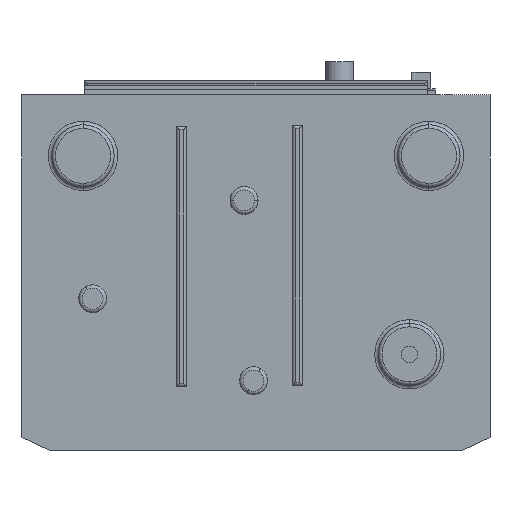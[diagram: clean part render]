
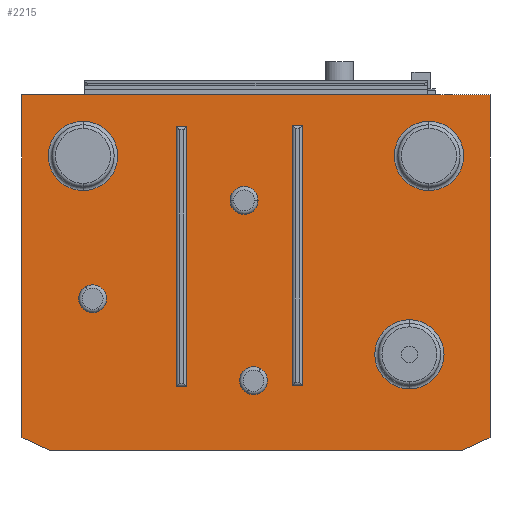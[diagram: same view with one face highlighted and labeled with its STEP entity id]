
A CAD part, front view. The second image highlights one B-rep face of the part: STEP entity #2215.
In plain terms, the highlighted planar face has unit normal (0, -1, 0).
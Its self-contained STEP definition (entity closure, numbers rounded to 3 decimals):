
#44=DIRECTION('',(0.,0.,-1.));
#45=VECTOR('',#44,289.275);
#46=CARTESIAN_POINT('',(197.5,0.,0.));
#47=LINE('',#46,#45);
#48=DIRECTION('',(-0.906,0.,-0.423));
#49=VECTOR('',#48,25.378);
#50=CARTESIAN_POINT('',(197.5,0.,-289.275));
#51=LINE('',#50,#49);
#52=DIRECTION('',(-1.,0.,0.));
#53=VECTOR('',#52,349.);
#54=CARTESIAN_POINT('',(174.5,0.,-300.));
#55=LINE('',#54,#53);
#56=DIRECTION('',(-0.906,0.,0.423));
#57=VECTOR('',#56,25.378);
#58=CARTESIAN_POINT('',(-174.5,0.,-300.));
#59=LINE('',#58,#57);
#60=DIRECTION('',(0.,0.,1.));
#61=VECTOR('',#60,289.275);
#62=CARTESIAN_POINT('',(-197.5,0.,-289.275));
#63=LINE('',#62,#61);
#64=DIRECTION('',(1.,0.,0.));
#65=VECTOR('',#64,395.);
#66=CARTESIAN_POINT('',(-197.5,0.,0.));
#67=LINE('',#66,#65);
#68=DIRECTION('',(-1.,0.,0.));
#69=VECTOR('',#68,9.);
#70=CARTESIAN_POINT('',(-58.379,0.,-26.5));
#71=LINE('',#70,#69);
#72=DIRECTION('',(0.,0.,-1.));
#73=VECTOR('',#72,220.);
#74=CARTESIAN_POINT('',(-67.379,0.,-26.5));
#75=LINE('',#74,#73);
#76=DIRECTION('',(1.,0.,0.));
#77=VECTOR('',#76,9.);
#78=CARTESIAN_POINT('',(-67.379,0.,-246.5));
#79=LINE('',#78,#77);
#80=DIRECTION('',(0.,0.,1.));
#81=VECTOR('',#80,220.);
#82=CARTESIAN_POINT('',(-58.379,0.,-246.5));
#83=LINE('',#82,#81);
#84=DIRECTION('',(0.,0.,-1.));
#85=VECTOR('',#84,220.);
#86=CARTESIAN_POINT('',(30.451,0.,-25.5));
#87=LINE('',#86,#85);
#88=DIRECTION('',(1.,0.,0.));
#89=VECTOR('',#88,9.);
#90=CARTESIAN_POINT('',(30.451,0.,-245.5));
#91=LINE('',#90,#89);
#92=DIRECTION('',(0.,0.,1.));
#93=VECTOR('',#92,220.);
#94=CARTESIAN_POINT('',(39.451,0.,-245.5));
#95=LINE('',#94,#93);
#96=DIRECTION('',(-1.,0.,0.));
#97=VECTOR('',#96,9.);
#98=CARTESIAN_POINT('',(39.451,0.,-25.5));
#99=LINE('',#98,#97);
#100=CARTESIAN_POINT('',(-10.049,0.,-89.091));
#101=DIRECTION('',(0.,-1.,0.));
#102=DIRECTION('',(1.,0.,0.));
#103=AXIS2_PLACEMENT_3D('',#100,#101,#102);
#105=CARTESIAN_POINT('',(-10.049,0.,-89.091));
#106=DIRECTION('',(0.,-1.,0.));
#107=DIRECTION('',(-1.,0.,0.));
#108=AXIS2_PLACEMENT_3D('',#105,#106,#107);
#110=CARTESIAN_POINT('',(-2.072,0.,-241.303));
#111=DIRECTION('',(0.,-1.,0.));
#112=DIRECTION('',(0.5,0.,0.866));
#113=AXIS2_PLACEMENT_3D('',#110,#111,#112);
#115=CARTESIAN_POINT('',(-2.072,0.,-241.303));
#116=DIRECTION('',(0.,-1.,0.));
#117=DIRECTION('',(-0.5,0.,-0.866));
#118=AXIS2_PLACEMENT_3D('',#115,#116,#117);
#120=CARTESIAN_POINT('',(-137.879,0.,-172.106));
#121=DIRECTION('',(0.,-1.,0.));
#122=DIRECTION('',(0.5,0.,-0.866));
#123=AXIS2_PLACEMENT_3D('',#120,#121,#122);
#125=CARTESIAN_POINT('',(-137.879,0.,-172.106));
#126=DIRECTION('',(0.,-1.,0.));
#127=DIRECTION('',(-0.5,0.,0.866));
#128=AXIS2_PLACEMENT_3D('',#125,#126,#127);
#130=CARTESIAN_POINT('',(129.5,0.,-219.));
#131=DIRECTION('',(0.,-1.,0.));
#132=DIRECTION('',(0.,0.,1.));
#133=AXIS2_PLACEMENT_3D('',#130,#131,#132);
#135=CARTESIAN_POINT('',(129.5,0.,-219.));
#136=DIRECTION('',(0.,-1.,0.));
#137=DIRECTION('',(0.,0.,-1.));
#138=AXIS2_PLACEMENT_3D('',#135,#136,#137);
#140=CARTESIAN_POINT('',(146.,0.,-51.5));
#141=DIRECTION('',(0.,-1.,0.));
#142=DIRECTION('',(0.,0.,1.));
#143=AXIS2_PLACEMENT_3D('',#140,#141,#142);
#145=CARTESIAN_POINT('',(146.,0.,-51.5));
#146=DIRECTION('',(0.,-1.,0.));
#147=DIRECTION('',(0.,0.,-1.));
#148=AXIS2_PLACEMENT_3D('',#145,#146,#147);
#150=CARTESIAN_POINT('',(-146.,0.,-51.5));
#151=DIRECTION('',(0.,-1.,0.));
#152=DIRECTION('',(0.,0.,1.));
#153=AXIS2_PLACEMENT_3D('',#150,#151,#152);
#155=CARTESIAN_POINT('',(-146.,0.,-51.5));
#156=DIRECTION('',(0.,-1.,0.));
#157=DIRECTION('',(0.,0.,-1.));
#158=AXIS2_PLACEMENT_3D('',#155,#156,#157);
#1692=CARTESIAN_POINT('',(197.5,0.,0.));
#1693=CARTESIAN_POINT('',(197.5,0.,-289.275));
#1694=VERTEX_POINT('',#1692);
#1695=VERTEX_POINT('',#1693);
#1696=CARTESIAN_POINT('',(174.5,0.,-300.));
#1697=VERTEX_POINT('',#1696);
#1698=CARTESIAN_POINT('',(-174.5,0.,-300.));
#1699=VERTEX_POINT('',#1698);
#1700=CARTESIAN_POINT('',(-197.5,0.,-289.275));
#1701=VERTEX_POINT('',#1700);
#1702=CARTESIAN_POINT('',(-197.5,0.,0.));
#1703=VERTEX_POINT('',#1702);
#1740=CARTESIAN_POINT('',(-58.379,0.,-26.5));
#1741=CARTESIAN_POINT('',(-67.379,0.,-26.5));
#1742=VERTEX_POINT('',#1740);
#1743=VERTEX_POINT('',#1741);
#1744=CARTESIAN_POINT('',(-67.379,0.,-246.5));
#1745=VERTEX_POINT('',#1744);
#1746=CARTESIAN_POINT('',(-58.379,0.,-246.5));
#1747=VERTEX_POINT('',#1746);
#1748=CARTESIAN_POINT('',(30.451,0.,-25.5));
#1749=CARTESIAN_POINT('',(30.451,0.,-245.5));
#1750=VERTEX_POINT('',#1748);
#1751=VERTEX_POINT('',#1749);
#1752=CARTESIAN_POINT('',(39.451,0.,-245.5));
#1753=VERTEX_POINT('',#1752);
#1754=CARTESIAN_POINT('',(39.451,0.,-25.5));
#1755=VERTEX_POINT('',#1754);
#1756=CARTESIAN_POINT('',(1.751,0.,-89.091));
#1757=CARTESIAN_POINT('',(-21.849,0.,-89.091));
#1758=VERTEX_POINT('',#1756);
#1759=VERTEX_POINT('',#1757);
#1760=CARTESIAN_POINT('',(3.828,0.,-231.084));
#1761=CARTESIAN_POINT('',(-7.972,0.,-251.522));
#1762=VERTEX_POINT('',#1760);
#1763=VERTEX_POINT('',#1761);
#1764=CARTESIAN_POINT('',(-131.979,0.,-182.325));
#1765=CARTESIAN_POINT('',(-143.779,0.,-161.886));
#1766=VERTEX_POINT('',#1764);
#1767=VERTEX_POINT('',#1765);
#2036=CARTESIAN_POINT('',(129.5,0.,-189.764));
#2037=CARTESIAN_POINT('',(129.5,0.,-248.236));
#2038=VERTEX_POINT('',#2036);
#2039=VERTEX_POINT('',#2037);
#2044=CARTESIAN_POINT('',(146.,0.,-22.264));
#2045=CARTESIAN_POINT('',(146.,0.,-80.736));
#2046=VERTEX_POINT('',#2044);
#2047=VERTEX_POINT('',#2045);
#2052=CARTESIAN_POINT('',(-146.,0.,-22.264));
#2053=CARTESIAN_POINT('',(-146.,0.,-80.736));
#2054=VERTEX_POINT('',#2052);
#2055=VERTEX_POINT('',#2053);
#2140=CARTESIAN_POINT('',(0.,0.,0.));
#2141=DIRECTION('',(0.,1.,0.));
#2142=DIRECTION('',(0.,0.,-1.));
#2143=AXIS2_PLACEMENT_3D('',#2140,#2141,#2142);
#2144=PLANE('',#2143);
#2146=ORIENTED_EDGE('',*,*,#2145,.T.);
#2148=ORIENTED_EDGE('',*,*,#2147,.T.);
#2150=ORIENTED_EDGE('',*,*,#2149,.T.);
#2152=ORIENTED_EDGE('',*,*,#2151,.T.);
#2154=ORIENTED_EDGE('',*,*,#2153,.T.);
#2156=ORIENTED_EDGE('',*,*,#2155,.T.);
#2157=EDGE_LOOP('',(#2146,#2148,#2150,#2152,#2154,#2156));
#2158=FACE_OUTER_BOUND('',#2157,.F.);
#2160=ORIENTED_EDGE('',*,*,#2159,.T.);
#2162=ORIENTED_EDGE('',*,*,#2161,.T.);
#2164=ORIENTED_EDGE('',*,*,#2163,.T.);
#2166=ORIENTED_EDGE('',*,*,#2165,.T.);
#2167=EDGE_LOOP('',(#2160,#2162,#2164,#2166));
#2168=FACE_BOUND('',#2167,.F.);
#2170=ORIENTED_EDGE('',*,*,#2169,.T.);
#2172=ORIENTED_EDGE('',*,*,#2171,.T.);
#2174=ORIENTED_EDGE('',*,*,#2173,.T.);
#2176=ORIENTED_EDGE('',*,*,#2175,.T.);
#2177=EDGE_LOOP('',(#2170,#2172,#2174,#2176));
#2178=FACE_BOUND('',#2177,.F.);
#2180=ORIENTED_EDGE('',*,*,#2179,.T.);
#2182=ORIENTED_EDGE('',*,*,#2181,.T.);
#2183=EDGE_LOOP('',(#2180,#2182));
#2184=FACE_BOUND('',#2183,.F.);
#2186=ORIENTED_EDGE('',*,*,#2185,.T.);
#2188=ORIENTED_EDGE('',*,*,#2187,.T.);
#2189=EDGE_LOOP('',(#2186,#2188));
#2190=FACE_BOUND('',#2189,.F.);
#2192=ORIENTED_EDGE('',*,*,#2191,.T.);
#2194=ORIENTED_EDGE('',*,*,#2193,.T.);
#2195=EDGE_LOOP('',(#2192,#2194));
#2196=FACE_BOUND('',#2195,.F.);
#2198=ORIENTED_EDGE('',*,*,#2197,.T.);
#2200=ORIENTED_EDGE('',*,*,#2199,.T.);
#2201=EDGE_LOOP('',(#2198,#2200));
#2202=FACE_BOUND('',#2201,.F.);
#2204=ORIENTED_EDGE('',*,*,#2203,.T.);
#2206=ORIENTED_EDGE('',*,*,#2205,.T.);
#2207=EDGE_LOOP('',(#2204,#2206));
#2208=FACE_BOUND('',#2207,.F.);
#2210=ORIENTED_EDGE('',*,*,#2209,.T.);
#2212=ORIENTED_EDGE('',*,*,#2211,.T.);
#2213=EDGE_LOOP('',(#2210,#2212));
#2214=FACE_BOUND('',#2213,.F.);
#2215=ADVANCED_FACE('',(#2158,#2168,#2178,#2184,#2190,#2196,#2202,#2208,#2214),
#2144,.F.);
#104=CIRCLE('',#103,11.8);
#109=CIRCLE('',#108,11.8);
#114=CIRCLE('',#113,11.8);
#119=CIRCLE('',#118,11.8);
#124=CIRCLE('',#123,11.8);
#129=CIRCLE('',#128,11.8);
#134=CIRCLE('',#133,29.236);
#139=CIRCLE('',#138,29.236);
#144=CIRCLE('',#143,29.236);
#149=CIRCLE('',#148,29.236);
#154=CIRCLE('',#153,29.236);
#159=CIRCLE('',#158,29.236);
#2145=EDGE_CURVE('',#1694,#1695,#47,.T.);
#2147=EDGE_CURVE('',#1695,#1697,#51,.T.);
#2149=EDGE_CURVE('',#1697,#1699,#55,.T.);
#2151=EDGE_CURVE('',#1699,#1701,#59,.T.);
#2153=EDGE_CURVE('',#1701,#1703,#63,.T.);
#2155=EDGE_CURVE('',#1703,#1694,#67,.T.);
#2159=EDGE_CURVE('',#1742,#1743,#71,.T.);
#2161=EDGE_CURVE('',#1743,#1745,#75,.T.);
#2163=EDGE_CURVE('',#1745,#1747,#79,.T.);
#2165=EDGE_CURVE('',#1747,#1742,#83,.T.);
#2169=EDGE_CURVE('',#1750,#1751,#87,.T.);
#2171=EDGE_CURVE('',#1751,#1753,#91,.T.);
#2173=EDGE_CURVE('',#1753,#1755,#95,.T.);
#2175=EDGE_CURVE('',#1755,#1750,#99,.T.);
#2179=EDGE_CURVE('',#1758,#1759,#104,.T.);
#2181=EDGE_CURVE('',#1759,#1758,#109,.T.);
#2185=EDGE_CURVE('',#1762,#1763,#114,.T.);
#2187=EDGE_CURVE('',#1763,#1762,#119,.T.);
#2191=EDGE_CURVE('',#1766,#1767,#124,.T.);
#2193=EDGE_CURVE('',#1767,#1766,#129,.T.);
#2197=EDGE_CURVE('',#2038,#2039,#134,.T.);
#2199=EDGE_CURVE('',#2039,#2038,#139,.T.);
#2203=EDGE_CURVE('',#2046,#2047,#144,.T.);
#2205=EDGE_CURVE('',#2047,#2046,#149,.T.);
#2209=EDGE_CURVE('',#2054,#2055,#154,.T.);
#2211=EDGE_CURVE('',#2055,#2054,#159,.T.);
